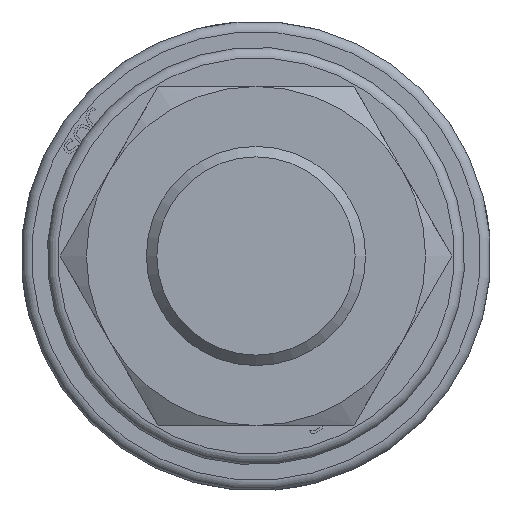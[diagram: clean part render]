
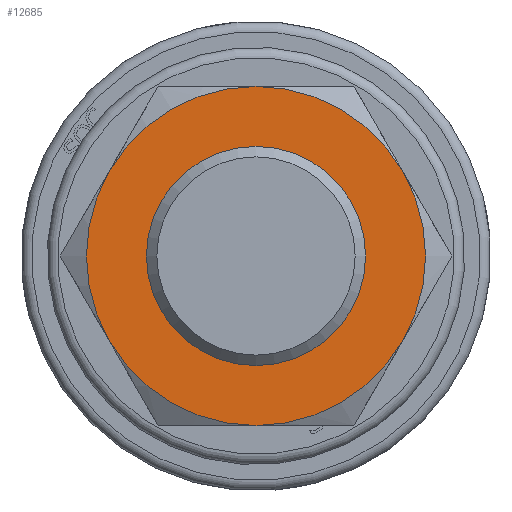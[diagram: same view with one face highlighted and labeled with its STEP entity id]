
A CAD part, front view. The second image highlights one B-rep face of the part: STEP entity #12685.
In plain terms, the highlighted planar face has unit normal (0, -1, 0) as drawn and (-1, 0, 0) by its records, which use the part's own axes.
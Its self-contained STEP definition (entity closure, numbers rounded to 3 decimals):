
#111=CIRCLE('',#13335,21.);
#113=CIRCLE('',#13339,32.5);
#114=CIRCLE('',#13340,32.5);
#115=CIRCLE('',#13341,32.5);
#116=CIRCLE('',#13342,32.5);
#117=CIRCLE('',#13343,32.5);
#118=CIRCLE('',#13344,32.5);
#179=FACE_BOUND('',#1624,.T.);
#382=PLANE('',#13338);
#858=FACE_OUTER_BOUND('',#1623,.T.);
#1623=EDGE_LOOP('',(#9936,#9937,#9938,#9939,#9940,#9941));
#1624=EDGE_LOOP('',(#9942));
#5548=VERTEX_POINT('',#19524);
#5550=VERTEX_POINT('',#19530);
#5551=VERTEX_POINT('',#19531);
#5552=VERTEX_POINT('',#19533);
#5553=VERTEX_POINT('',#19535);
#5554=VERTEX_POINT('',#19537);
#5555=VERTEX_POINT('',#19539);
#7125=EDGE_CURVE('',#5548,#5548,#111,.T.);
#7127=EDGE_CURVE('',#5550,#5551,#113,.T.);
#7128=EDGE_CURVE('',#5551,#5552,#114,.T.);
#7129=EDGE_CURVE('',#5552,#5553,#115,.T.);
#7130=EDGE_CURVE('',#5553,#5554,#116,.T.);
#7131=EDGE_CURVE('',#5554,#5555,#117,.T.);
#7132=EDGE_CURVE('',#5555,#5550,#118,.T.);
#9936=ORIENTED_EDGE('',*,*,#7127,.T.);
#9937=ORIENTED_EDGE('',*,*,#7128,.T.);
#9938=ORIENTED_EDGE('',*,*,#7129,.T.);
#9939=ORIENTED_EDGE('',*,*,#7130,.T.);
#9940=ORIENTED_EDGE('',*,*,#7131,.T.);
#9941=ORIENTED_EDGE('',*,*,#7132,.T.);
#9942=ORIENTED_EDGE('',*,*,#7125,.F.);
#12685=ADVANCED_FACE('',(#858,#179),#382,.F.);
#13335=AXIS2_PLACEMENT_3D('',#19525,#14416,#14417);
#13338=AXIS2_PLACEMENT_3D('',#19529,#14422,#14423);
#13339=AXIS2_PLACEMENT_3D('',#19532,#14424,#14425);
#13340=AXIS2_PLACEMENT_3D('',#19534,#14426,#14427);
#13341=AXIS2_PLACEMENT_3D('',#19536,#14428,#14429);
#13342=AXIS2_PLACEMENT_3D('',#19538,#14430,#14431);
#13343=AXIS2_PLACEMENT_3D('',#19540,#14432,#14433);
#13344=AXIS2_PLACEMENT_3D('',#19541,#14434,#14435);
#14416=DIRECTION('center_axis',(-1.,0.,0.));
#14417=DIRECTION('ref_axis',(0.,0.,-1.));
#14422=DIRECTION('center_axis',(1.,0.,0.));
#14423=DIRECTION('ref_axis',(0.,0.,-1.));
#14424=DIRECTION('center_axis',(-1.,0.,0.));
#14425=DIRECTION('ref_axis',(0.,1.,0.));
#14426=DIRECTION('center_axis',(-1.,0.,0.));
#14427=DIRECTION('ref_axis',(0.,1.,0.));
#14428=DIRECTION('center_axis',(-1.,0.,0.));
#14429=DIRECTION('ref_axis',(0.,1.,0.));
#14430=DIRECTION('center_axis',(-1.,0.,0.));
#14431=DIRECTION('ref_axis',(0.,1.,0.));
#14432=DIRECTION('center_axis',(-1.,0.,0.));
#14433=DIRECTION('ref_axis',(0.,1.,0.));
#14434=DIRECTION('center_axis',(-1.,0.,0.));
#14435=DIRECTION('ref_axis',(0.,1.,0.));
#19524=CARTESIAN_POINT('',(0.,0.,21.));
#19525=CARTESIAN_POINT('Origin',(0.,0.,0.));
#19529=CARTESIAN_POINT('Origin',(0.,0.,0.));
#19530=CARTESIAN_POINT('',(0.,-28.146,-16.25));
#19531=CARTESIAN_POINT('',(0.,-28.146,16.25));
#19532=CARTESIAN_POINT('Origin',(0.,0.,0.));
#19533=CARTESIAN_POINT('',(0.,0.,32.5));
#19534=CARTESIAN_POINT('Origin',(0.,0.,0.));
#19535=CARTESIAN_POINT('',(0.,28.146,16.25));
#19536=CARTESIAN_POINT('Origin',(0.,0.,0.));
#19537=CARTESIAN_POINT('',(0.,28.146,-16.25));
#19538=CARTESIAN_POINT('Origin',(0.,0.,0.));
#19539=CARTESIAN_POINT('',(0.,0.,-32.5));
#19540=CARTESIAN_POINT('Origin',(0.,0.,0.));
#19541=CARTESIAN_POINT('Origin',(0.,0.,0.));
